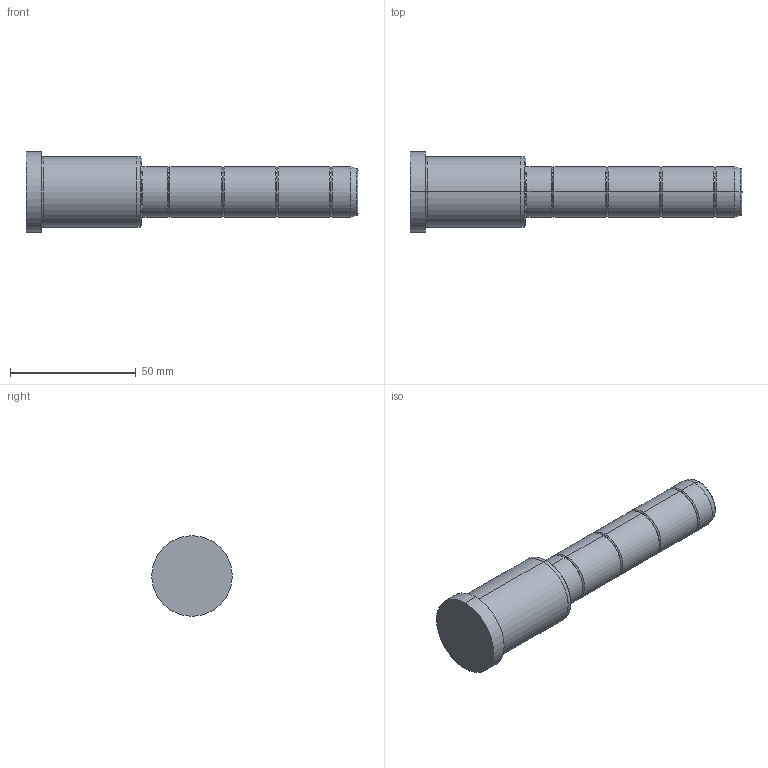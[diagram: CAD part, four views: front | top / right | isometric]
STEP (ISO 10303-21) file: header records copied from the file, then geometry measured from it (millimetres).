
FILE_DESCRIPTION( ( 'STEP AP203' ), '1' );
FILE_NAME( 'C:/Projects/D02 - 20x46x86.step', '2003-01-04T13:56:13', ( ' ' ), ( ' ' ), 'XStep 1.0', ' ', ' ' );
FILE_SCHEMA( ( 'CONFIG_CONTROL_DESIGN' ) );
Length unit declared in the file: metre
Products named in the file (1): 1
Bounding box: 132 x 32 x 32 mm (x, y, z)
Volume: 56321.6 mm3; surface area: 11166.3 mm2
Topology: 1 solids, 1 shells, 48 faces, 94 edges, 52 vertices
Faces by surface type: bspline 26, revolution 22
Entity records: 1523 total; most frequent: CARTESIAN_POINT 617, ORIENTED_EDGE 188, DIRECTION 150, EDGE_CURVE 94, AXIS2_PLACEMENT_3D 53, EDGE_LOOP 52, VERTEX_POINT 52, CIRCLE 52
